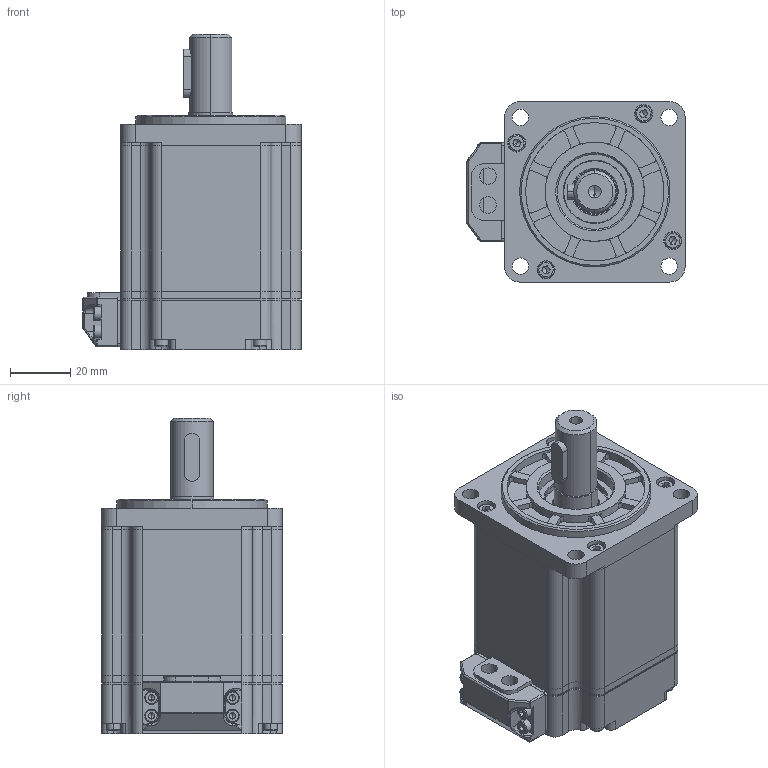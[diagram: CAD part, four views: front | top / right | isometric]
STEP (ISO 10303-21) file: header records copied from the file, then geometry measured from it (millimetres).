
FILE_DESCRIPTION (( 'STEP AP203' ), '1' );
FILE_NAME ('淕儂蚾饜2.STEP', '2020-08-04T02:28:45', ( 'admin' ), ( '' ), 'SwSTEP 2.0', 'SolidWorks 2016', '' );
FILE_SCHEMA (( 'CONFIG_CONTROL_DESIGN' ));
Products named in the file (1): 淕儂蚾饜2
Bounding box: 72.5 x 60 x 105 mm (x, y, z)
Volume: 144674.3 mm3; surface area: 101829.8 mm2
Topology: 25 solids, 25 shells, 1426 faces, 4068 edges, 2581 vertices
Faces by surface type: cylinder 581, plane 482, cone 141, torus 140, sphere 72, bspline 10
Entity records: 48229 total; most frequent: CARTESIAN_POINT 11677, DIRECTION 7900, ORIENTED_EDGE 7614, EDGE_CURVE 3807, AXIS2_PLACEMENT_3D 3146, VERTEX_POINT 2465, CIRCLE 1729, EDGE_LOOP 1628
